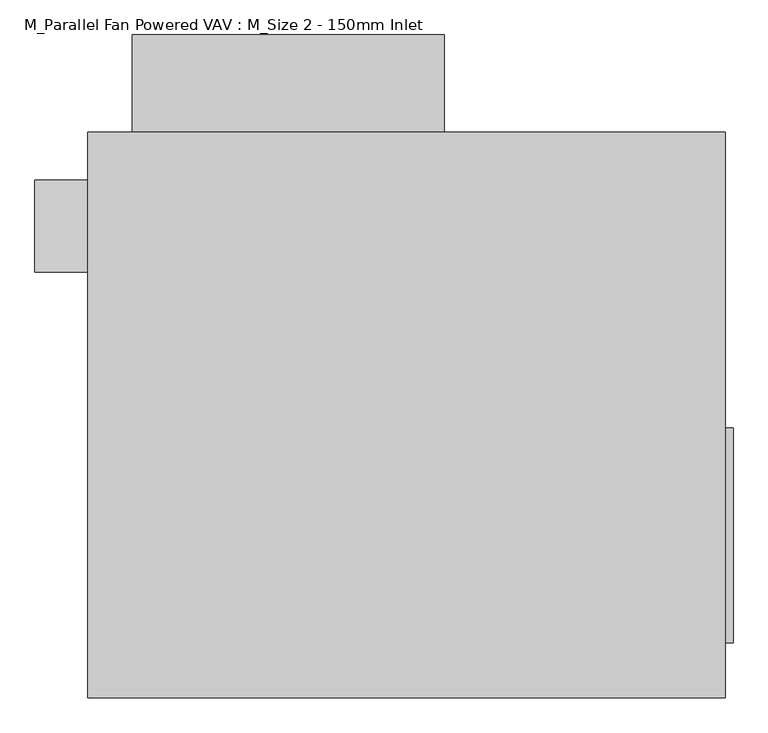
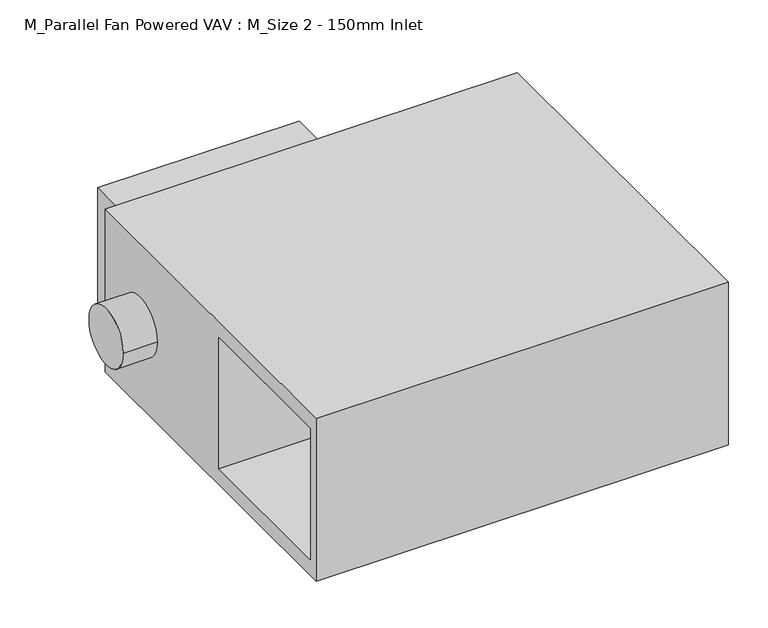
"""IFC4 building model written with IfcOpenShell, lengths in millimetres: proxy geometry, M_Parallel Fan Powered VAV : M_Size 2 - 150mm Inlet."""

from ifc_helpers import new_model, si_unit, point, frame, frame_2d, origin, place, context, project, spatial, polyline, circle_curve, trimmed, segment, composite_curve, outline, extrude, faceted_brep, source, transform, mapped, element, save


def m_parallel_fan_powered_vav_m_size_2_150mm_inlet_9c7135f7(model_context):
    return source(origin(), model_context, "Body", "SolidModel", [
        extrude(outline(polyline([(531.8, -21.5), (531.8, -371.5), (519.1125, -371.5), (519.1125, -21.5), (531.8, -21.5)])), frame((0.0, 0.0, -150.0), z_axis=(0.0, 0.0, 1.0), x_axis=(1.0, 0.0, 0.0)), (0.0, 0.0, 1.0), 300.0),
        extrude(outline(polyline([(61.9, 460.4), (-446.1, 460.4), (-446.1, 619.2), (61.9, 619.2), (61.9, 460.4)])), frame((0.0, 0.0, -152.4), z_axis=(0.0, 0.0, 1.0), x_axis=(1.0, 0.0, 0.0)), (0.0, 0.0, 1.0), 304.8),
        extrude(outline(composite_curve([segment(trimmed(circle_curve(frame_2d((308.0, 0.0)), 75.0), [point((233.0, 0.0))], [point((383.0, 0.0))], False, "CARTESIAN"), True, "CONTINUOUS"), segment(trimmed(circle_curve(frame_2d((308.0, 0.0)), 75.0), [point((383.0, 0.0))], [point((233.0, 0.0))], False, "CARTESIAN"), True, "CONTINUOUS")], self_intersect=False)), frame((-604.8, 0.0, 0.0), z_axis=(1.0, 0.0, 0.0), x_axis=(0.0, 1.0, 0.0)), (0.0, 0.0, 1.0), 85.7),
        faceted_brep([(519.1, 460.4, 217.5), (-519.1, 460.4, 217.5), (-519.1, -460.4, 217.5), (519.1, -460.4, 217.5), (519.1, 460.4, -217.5), (519.1, -460.4, -217.5), (-519.1, -460.4, -217.5), (-519.1, 460.4, -217.5), (-519.1, -435.0, 175.0), (-519.1, -435.0, -175.0), (-519.1, -35.0, -175.0), (-519.1, -35.0, 175.0), (0.0, -435.0, 175.0), (0.0, -35.0, 175.0), (0.0, -35.0, -175.0), (0.0, -435.0, -175.0)], [[[0, 1, 2, 3]], [[4, 5, 6, 7]], [[1, 0, 4, 7]], [[2, 1, 7, 6], [8, 9, 10, 11]], [[3, 2, 6, 5]], [[0, 3, 5, 4]], [[12, 13, 14, 15]], [[12, 15, 9, 8]], [[15, 14, 10, 9]], [[14, 13, 11, 10]], [[13, 12, 8, 11]]]),
    ])


if __name__ == "__main__":
    model = new_model("IFC4")
    model_context = context("Model", 3, world=origin())
    ifc_project = project(units=[si_unit("LENGTHUNIT", "METRE", prefix="MILLI")], contexts=[model_context])
    site = spatial("IfcSite", under=ifc_project)
    building = spatial("IfcBuilding", under=site)
    placement = place(None, origin())
    m_parallel_fan_powered_vav_m_size_2_150mm_inlet_shape = m_parallel_fan_powered_vav_m_size_2_150mm_inlet_9c7135f7(model_context)
    element("IfcBuildingElementProxy", 1, Name="M_Parallel Fan Powered VAV : M_Size 2 - 150mm Inlet", ObjectType="M_Parallel Fan Powered VAV : M_Size 2 - 150mm Inlet", at=placement, inside=building, context=model_context, shape_type="MappedRepresentation", body=[
        mapped(m_parallel_fan_powered_vav_m_size_2_150mm_inlet_shape, transform((0.0, 0.0, 0.0), x_axis=(1.0, 0.0, 0.0), y_axis=(0.0, 1.0, 0.0), z_axis=(0.0, 0.0, 1.0))),
    ])
    save(model, "model.ifc")
